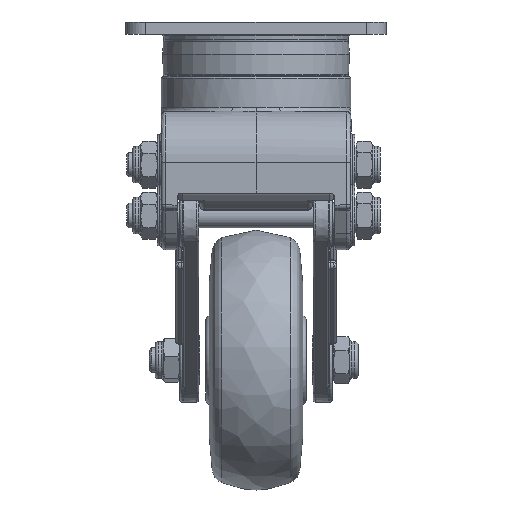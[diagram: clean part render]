
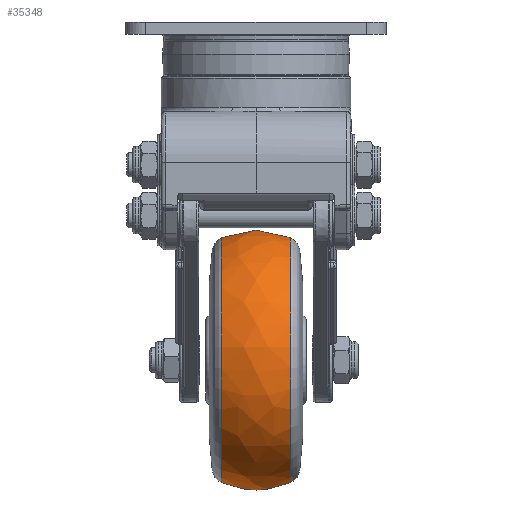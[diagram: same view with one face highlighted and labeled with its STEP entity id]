
A CAD part, left-side view. The second image highlights one B-rep face of the part: STEP entity #35348.
In plain terms, the highlighted free-form (B-spline) face has degree [2, 2] with [3, 9] control points.
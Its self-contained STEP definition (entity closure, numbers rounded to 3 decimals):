
#14=(
BOUNDED_SURFACE()
B_SPLINE_SURFACE(2,2,((#50007,#50008,#50009,#50010,#50011,#50012,#50013,
#50014,#50015),(#50016,#50017,#50018,#50019,#50020,#50021,#50022,#50023,
#50024),(#50025,#50026,#50027,#50028,#50029,#50030,#50031,#50032,#50033)),
 .UNSPECIFIED.,.F.,.T.,.F.)
B_SPLINE_SURFACE_WITH_KNOTS((3,3),(3,2,2,2,3),(-0.438,0.438),
(-3.142,-1.571,0.,1.571,3.142),
 .UNSPECIFIED.)
GEOMETRIC_REPRESENTATION_ITEM()
RATIONAL_B_SPLINE_SURFACE(((1.,0.707,1.,0.707,1.,
0.707,1.,0.707,1.),(0.906,0.64,
0.906,0.64,0.906,0.64,
0.906,0.64,0.906),(1.,0.707,
1.,0.707,1.,0.707,1.,0.707,1.)))
REPRESENTATION_ITEM('')
SURFACE()
);
#8310=FACE_OUTER_BOUND('',#10329,.T.);
#10329=EDGE_LOOP('',(#22842,#22843,#22844,#22845,#22846,#22847));
#12504=CIRCLE('',#37568,30.112);
#12505=CIRCLE('',#37569,30.112);
#12506=CIRCLE('',#37570,20.);
#12507=CIRCLE('',#37571,30.112);
#12508=CIRCLE('',#37572,30.112);
#13791=VERTEX_POINT('',#50034);
#13792=VERTEX_POINT('',#50035);
#13793=VERTEX_POINT('',#50038);
#13794=VERTEX_POINT('',#50040);
#17304=EDGE_CURVE('',#13791,#13792,#12504,.T.);
#17305=EDGE_CURVE('',#13792,#13791,#12505,.T.);
#17306=EDGE_CURVE('',#13792,#13793,#12506,.T.);
#17307=EDGE_CURVE('',#13793,#13794,#12507,.T.);
#17308=EDGE_CURVE('',#13794,#13793,#12508,.T.);
#22842=ORIENTED_EDGE('',*,*,#17304,.F.);
#22843=ORIENTED_EDGE('',*,*,#17305,.F.);
#22844=ORIENTED_EDGE('',*,*,#17306,.T.);
#22845=ORIENTED_EDGE('',*,*,#17307,.T.);
#22846=ORIENTED_EDGE('',*,*,#17308,.T.);
#22847=ORIENTED_EDGE('',*,*,#17306,.F.);
#35348=ADVANCED_FACE('',(#8310),#14,.F.);
#37568=AXIS2_PLACEMENT_3D('',#50036,#40660,#40661);
#37569=AXIS2_PLACEMENT_3D('',#50037,#40662,#40663);
#37570=AXIS2_PLACEMENT_3D('',#50039,#40664,#40665);
#37571=AXIS2_PLACEMENT_3D('',#50041,#40666,#40667);
#37572=AXIS2_PLACEMENT_3D('',#50042,#40668,#40669);
#40660=DIRECTION('center_axis',(0.,-1.,0.));
#40661=DIRECTION('ref_axis',(-0.282,0.,-0.959));
#40662=DIRECTION('center_axis',(0.,-1.,0.));
#40663=DIRECTION('ref_axis',(-0.282,0.,-0.959));
#40664=DIRECTION('center_axis',(-0.959,0.,
0.282));
#40665=DIRECTION('ref_axis',(0.282,0.,0.959));
#40666=DIRECTION('center_axis',(0.,-1.,0.));
#40667=DIRECTION('ref_axis',(-0.282,0.,-0.959));
#40668=DIRECTION('center_axis',(0.,-1.,0.));
#40669=DIRECTION('ref_axis',(-0.282,0.,-0.959));
#50007=CARTESIAN_POINT('Ctrl Pts',(5.943,-5.44,-49.684));
#50008=CARTESIAN_POINT('Ctrl Pts',(-22.948,-5.44,
-41.196));
#50009=CARTESIAN_POINT('Ctrl Pts',(-31.436,-5.44,
-70.087));
#50010=CARTESIAN_POINT('Ctrl Pts',(-39.924,-5.44,-98.978));
#50011=CARTESIAN_POINT('Ctrl Pts',(-11.033,-5.44,-107.466));
#50012=CARTESIAN_POINT('Ctrl Pts',(17.858,-5.44,-115.954));
#50013=CARTESIAN_POINT('Ctrl Pts',(26.346,-5.44,-87.063));
#50014=CARTESIAN_POINT('Ctrl Pts',(34.834,-5.44,-58.172));
#50015=CARTESIAN_POINT('Ctrl Pts',(5.943,-5.44,-49.684));
#50016=CARTESIAN_POINT('Ctrl Pts',(7.063,-13.922,-45.873));
#50017=CARTESIAN_POINT('Ctrl Pts',(-25.639,-13.922,
-36.265));
#50018=CARTESIAN_POINT('Ctrl Pts',(-35.247,-13.922,
-68.967));
#50019=CARTESIAN_POINT('Ctrl Pts',(-44.855,-13.922,-101.669));
#50020=CARTESIAN_POINT('Ctrl Pts',(-12.153,-13.922,
-111.277));
#50021=CARTESIAN_POINT('Ctrl Pts',(20.55,-13.922,-120.885));
#50022=CARTESIAN_POINT('Ctrl Pts',(30.158,-13.922,-88.183));
#50023=CARTESIAN_POINT('Ctrl Pts',(39.765,-13.922,-55.48));
#50024=CARTESIAN_POINT('Ctrl Pts',(7.063,-13.922,-45.873));
#50025=CARTESIAN_POINT('Ctrl Pts',(5.943,-22.405,-49.684));
#50026=CARTESIAN_POINT('Ctrl Pts',(-22.948,-22.405,-41.196));
#50027=CARTESIAN_POINT('Ctrl Pts',(-31.436,-22.405,
-70.087));
#50028=CARTESIAN_POINT('Ctrl Pts',(-39.924,-22.405,
-98.978));
#50029=CARTESIAN_POINT('Ctrl Pts',(-11.033,-22.405,
-107.466));
#50030=CARTESIAN_POINT('Ctrl Pts',(17.858,-22.405,-115.954));
#50031=CARTESIAN_POINT('Ctrl Pts',(26.346,-22.405,-87.063));
#50032=CARTESIAN_POINT('Ctrl Pts',(34.834,-22.405,-58.172));
#50033=CARTESIAN_POINT('Ctrl Pts',(5.943,-22.405,-49.684));
#50034=CARTESIAN_POINT('',(-11.033,-22.405,-107.466));
#50035=CARTESIAN_POINT('',(5.943,-22.405,-49.684));
#50036=CARTESIAN_POINT('Origin',(-2.545,-22.405,-78.575));
#50037=CARTESIAN_POINT('Origin',(-2.545,-22.405,-78.575));
#50038=CARTESIAN_POINT('',(5.943,-5.44,-49.684));
#50039=CARTESIAN_POINT('Origin',(0.838,-13.922,-67.061));
#50040=CARTESIAN_POINT('',(-11.033,-5.44,-107.466));
#50041=CARTESIAN_POINT('Origin',(-2.545,-5.44,-78.575));
#50042=CARTESIAN_POINT('Origin',(-2.545,-5.44,-78.575));
